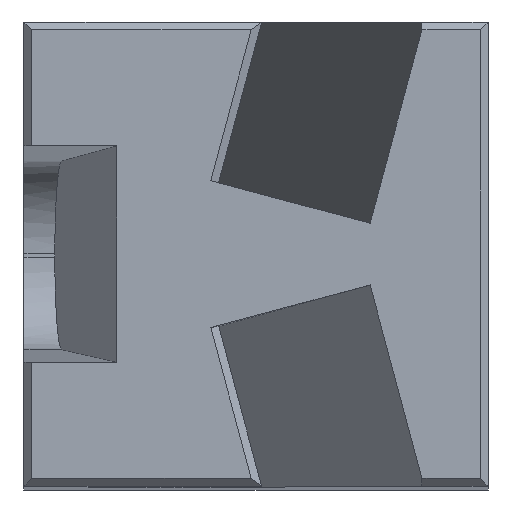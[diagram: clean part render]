
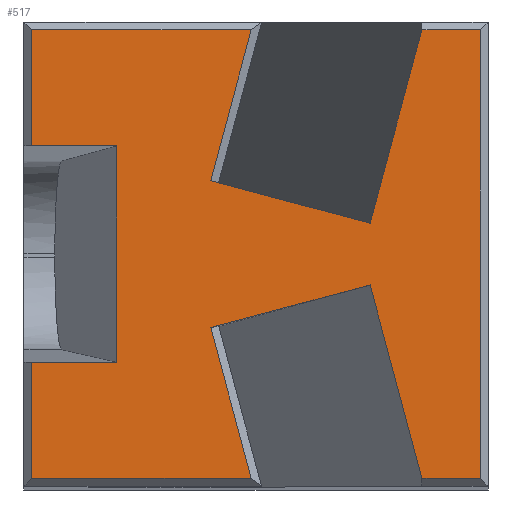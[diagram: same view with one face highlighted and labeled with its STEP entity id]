
A CAD part, top view. The second image highlights one B-rep face of the part: STEP entity #517.
In plain terms, the highlighted planar face has unit normal (0, 0, 1).
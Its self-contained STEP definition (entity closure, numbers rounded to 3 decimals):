
#6 = DIRECTION ( 'NONE',  ( 1., 0., 0. ) ) ;
#11 = ORIENTED_EDGE ( 'NONE', *, *, #830, .F. ) ;
#24 = VERTEX_POINT ( 'NONE', #184 ) ;
#30 = VECTOR ( 'NONE', #804, 1000. ) ;
#49 = DIRECTION ( 'NONE',  ( 0., 1., 0. ) ) ;
#54 = DIRECTION ( 'NONE',  ( 1., 0., 0. ) ) ;
#66 = LINE ( 'NONE', #88, #458 ) ;
#73 = VERTEX_POINT ( 'NONE', #99 ) ;
#88 = CARTESIAN_POINT ( 'NONE',  ( 0., 14.75, 70. ) ) ;
#99 = CARTESIAN_POINT ( 'NONE',  ( 0.25, 14.75, 70. ) ) ;
#104 = DIRECTION ( 'NONE',  ( 0.259, 0.966, 0. ) ) ;
#106 = DIRECTION ( 'NONE',  ( 0.966, -0.259, 0. ) ) ;
#118 = VECTOR ( 'NONE', #54, 1000. ) ;
#120 = CARTESIAN_POINT ( 'NONE',  ( 0.25, 4., 70. ) ) ;
#131 = VECTOR ( 'NONE', #104, 1000. ) ;
#135 = VECTOR ( 'NONE', #605, 1000. ) ;
#143 = EDGE_LOOP ( 'NONE', ( #348, #525, #11, #1045, #1085, #1185, #412, #963, #248, #827, #291, #948, #926, #219, #338, #309 ) ) ;
#154 = CARTESIAN_POINT ( 'NONE',  ( 11.187, 8.495, 70. ) ) ;
#159 = DIRECTION ( 'NONE',  ( 0., 1., 0. ) ) ;
#184 = CARTESIAN_POINT ( 'NONE',  ( 3., 4., 70. ) ) ;
#197 = LINE ( 'NONE', #707, #499 ) ;
#198 = CARTESIAN_POINT ( 'NONE',  ( 0., 0.25, 70. ) ) ;
#201 = LINE ( 'NONE', #198, #628 ) ;
#209 = VERTEX_POINT ( 'NONE', #861 ) ;
#219 = ORIENTED_EDGE ( 'NONE', *, *, #622, .F. ) ;
#226 = VECTOR ( 'NONE', #831, 1000. ) ;
#235 = DIRECTION ( 'NONE',  ( -1., 0., 0. ) ) ;
#241 = VECTOR ( 'NONE', #819, 1000. ) ;
#244 = EDGE_CURVE ( 'NONE', #871, #660, #377, .T. ) ;
#248 = ORIENTED_EDGE ( 'NONE', *, *, #476, .T. ) ;
#265 = CARTESIAN_POINT ( 'NONE',  ( 11.187, 6.505, 70. ) ) ;
#274 = DIRECTION ( 'NONE',  ( -1., 0., 0. ) ) ;
#281 = LINE ( 'NONE', #442, #30 ) ;
#291 = ORIENTED_EDGE ( 'NONE', *, *, #1077, .T. ) ;
#302 = LINE ( 'NONE', #265, #241 ) ;
#306 = AXIS2_PLACEMENT_3D ( 'NONE', #363, #453, #274 ) ;
#309 = ORIENTED_EDGE ( 'NONE', *, *, #455, .T. ) ;
#314 = EDGE_CURVE ( 'NONE', #755, #209, #489, .T. ) ;
#321 = CARTESIAN_POINT ( 'NONE',  ( 12.862, 14.75, 70. ) ) ;
#332 = CARTESIAN_POINT ( 'NONE',  ( 3., 11., 70. ) ) ;
#336 = VERTEX_POINT ( 'NONE', #321 ) ;
#338 = ORIENTED_EDGE ( 'NONE', *, *, #1160, .T. ) ;
#344 = DIRECTION ( 'NONE',  ( 0., -1., 0. ) ) ;
#346 = VERTEX_POINT ( 'NONE', #528 ) ;
#348 = ORIENTED_EDGE ( 'NONE', *, *, #964, .T. ) ;
#349 = VERTEX_POINT ( 'NONE', #711 ) ;
#359 = VERTEX_POINT ( 'NONE', #1088 ) ;
#360 = CARTESIAN_POINT ( 'NONE',  ( 6.04, 5.126, 70. ) ) ;
#363 = CARTESIAN_POINT ( 'NONE',  ( 0., 0., 70. ) ) ;
#377 = LINE ( 'NONE', #425, #522 ) ;
#382 = VERTEX_POINT ( 'NONE', #1003 ) ;
#412 = ORIENTED_EDGE ( 'NONE', *, *, #1051, .T. ) ;
#423 = CARTESIAN_POINT ( 'NONE',  ( 7.347, 14.75, 70. ) ) ;
#425 = CARTESIAN_POINT ( 'NONE',  ( 0., 11., 70. ) ) ;
#442 = CARTESIAN_POINT ( 'NONE',  ( 6.04, 5.126, 70. ) ) ;
#453 = DIRECTION ( 'NONE',  ( 0., 0., -1. ) ) ;
#455 = EDGE_CURVE ( 'NONE', #911, #73, #66, .T. ) ;
#458 = VECTOR ( 'NONE', #544, 1000. ) ;
#465 = CARTESIAN_POINT ( 'NONE',  ( 0.25, 11., 70. ) ) ;
#476 = EDGE_CURVE ( 'NONE', #359, #663, #302, .T. ) ;
#489 = LINE ( 'NONE', #504, #960 ) ;
#492 = DIRECTION ( 'NONE',  ( 0.966, 0.259, 0. ) ) ;
#499 = VECTOR ( 'NONE', #159, 1000. ) ;
#504 = CARTESIAN_POINT ( 'NONE',  ( 0.25, 0., 70. ) ) ;
#516 = CARTESIAN_POINT ( 'NONE',  ( 0., 4., 70. ) ) ;
#517 = ADVANCED_FACE ( 'NONE', ( #1182 ), #1108, .F. ) ;
#522 = VECTOR ( 'NONE', #235, 1000. ) ;
#525 = ORIENTED_EDGE ( 'NONE', *, *, #244, .F. ) ;
#528 = CARTESIAN_POINT ( 'NONE',  ( 7.347, 0.25, 70. ) ) ;
#540 = CARTESIAN_POINT ( 'NONE',  ( 11.187, 8.495, 70. ) ) ;
#543 = LINE ( 'NONE', #982, #135 ) ;
#544 = DIRECTION ( 'NONE',  ( -1., 0., 0. ) ) ;
#559 = CARTESIAN_POINT ( 'NONE',  ( 12.862, 0.25, 70. ) ) ;
#569 = LINE ( 'NONE', #516, #118 ) ;
#586 = VECTOR ( 'NONE', #492, 1000. ) ;
#605 = DIRECTION ( 'NONE',  ( 1., 0., 0. ) ) ;
#622 = EDGE_CURVE ( 'NONE', #1087, #840, #1166, .T. ) ;
#627 = CARTESIAN_POINT ( 'NONE',  ( 0.25, 0., 70. ) ) ;
#628 = VECTOR ( 'NONE', #6, 1000. ) ;
#660 = VERTEX_POINT ( 'NONE', #465 ) ;
#663 = VERTEX_POINT ( 'NONE', #559 ) ;
#669 = VECTOR ( 'NONE', #106, 1000. ) ;
#673 = CARTESIAN_POINT ( 'NONE',  ( 3., 11., 70. ) ) ;
#675 = EDGE_CURVE ( 'NONE', #663, #382, #201, .T. ) ;
#683 = LINE ( 'NONE', #540, #226 ) ;
#707 = CARTESIAN_POINT ( 'NONE',  ( 14.75, 0., 70. ) ) ;
#711 = CARTESIAN_POINT ( 'NONE',  ( 14.75, 14.75, 70. ) ) ;
#712 = CARTESIAN_POINT ( 'NONE',  ( 6.041, 9.874, 70. ) ) ;
#755 = VERTEX_POINT ( 'NONE', #120 ) ;
#804 = DIRECTION ( 'NONE',  ( -0.259, 0.966, 0. ) ) ;
#805 = EDGE_CURVE ( 'NONE', #1113, #359, #956, .T. ) ;
#819 = DIRECTION ( 'NONE',  ( 0.259, -0.966, 0. ) ) ;
#820 = CARTESIAN_POINT ( 'NONE',  ( 3.167, -0.849, 70. ) ) ;
#827 = ORIENTED_EDGE ( 'NONE', *, *, #675, .T. ) ;
#830 = EDGE_CURVE ( 'NONE', #24, #871, #1002, .T. ) ;
#831 = DIRECTION ( 'NONE',  ( 0.259, 0.966, 0. ) ) ;
#836 = VECTOR ( 'NONE', #49, 1000. ) ;
#840 = VERTEX_POINT ( 'NONE', #154 ) ;
#846 = CARTESIAN_POINT ( 'NONE',  ( 11.187, 8.495, 70. ) ) ;
#852 = EDGE_CURVE ( 'NONE', #755, #24, #569, .T. ) ;
#861 = CARTESIAN_POINT ( 'NONE',  ( 0.25, 0.25, 70. ) ) ;
#862 = CARTESIAN_POINT ( 'NONE',  ( 11.187, 6.505, 70. ) ) ;
#871 = VERTEX_POINT ( 'NONE', #332 ) ;
#892 = CARTESIAN_POINT ( 'NONE',  ( 0., 14.75, 70. ) ) ;
#911 = VERTEX_POINT ( 'NONE', #423 ) ;
#926 = ORIENTED_EDGE ( 'NONE', *, *, #1177, .F. ) ;
#929 = EDGE_CURVE ( 'NONE', #209, #346, #543, .T. ) ;
#935 = LINE ( 'NONE', #820, #131 ) ;
#948 = ORIENTED_EDGE ( 'NONE', *, *, #1058, .T. ) ;
#953 = VECTOR ( 'NONE', #1103, 1000. ) ;
#956 = LINE ( 'NONE', #862, #586 ) ;
#960 = VECTOR ( 'NONE', #1164, 1000. ) ;
#963 = ORIENTED_EDGE ( 'NONE', *, *, #805, .T. ) ;
#964 = EDGE_CURVE ( 'NONE', #73, #660, #988, .T. ) ;
#982 = CARTESIAN_POINT ( 'NONE',  ( 0., 0.25, 70. ) ) ;
#988 = LINE ( 'NONE', #627, #1178 ) ;
#1002 = LINE ( 'NONE', #673, #836 ) ;
#1003 = CARTESIAN_POINT ( 'NONE',  ( 14.75, 0.25, 70. ) ) ;
#1045 = ORIENTED_EDGE ( 'NONE', *, *, #852, .F. ) ;
#1051 = EDGE_CURVE ( 'NONE', #346, #1113, #281, .T. ) ;
#1058 = EDGE_CURVE ( 'NONE', #349, #336, #1117, .T. ) ;
#1077 = EDGE_CURVE ( 'NONE', #382, #349, #197, .T. ) ;
#1085 = ORIENTED_EDGE ( 'NONE', *, *, #314, .T. ) ;
#1087 = VERTEX_POINT ( 'NONE', #712 ) ;
#1088 = CARTESIAN_POINT ( 'NONE',  ( 11.187, 6.505, 70. ) ) ;
#1103 = DIRECTION ( 'NONE',  ( -1., 0., 0. ) ) ;
#1108 = PLANE ( 'NONE',  #306 ) ;
#1113 = VERTEX_POINT ( 'NONE', #360 ) ;
#1117 = LINE ( 'NONE', #892, #953 ) ;
#1160 = EDGE_CURVE ( 'NONE', #1087, #911, #935, .T. ) ;
#1164 = DIRECTION ( 'NONE',  ( 0., -1., 0. ) ) ;
#1166 = LINE ( 'NONE', #846, #669 ) ;
#1177 = EDGE_CURVE ( 'NONE', #840, #336, #683, .T. ) ;
#1178 = VECTOR ( 'NONE', #344, 1000. ) ;
#1182 = FACE_OUTER_BOUND ( 'NONE', #143, .T. ) ;
#1185 = ORIENTED_EDGE ( 'NONE', *, *, #929, .T. ) ;
